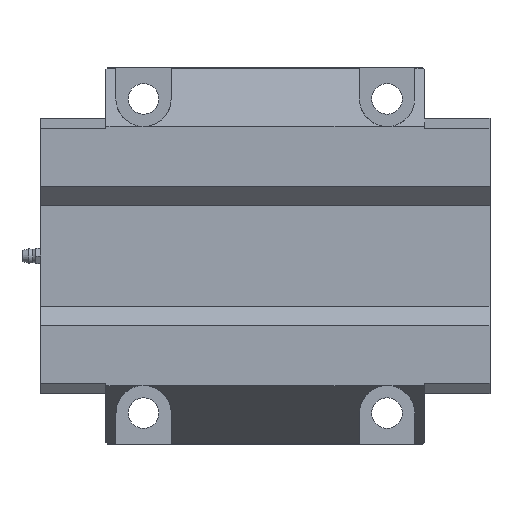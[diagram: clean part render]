
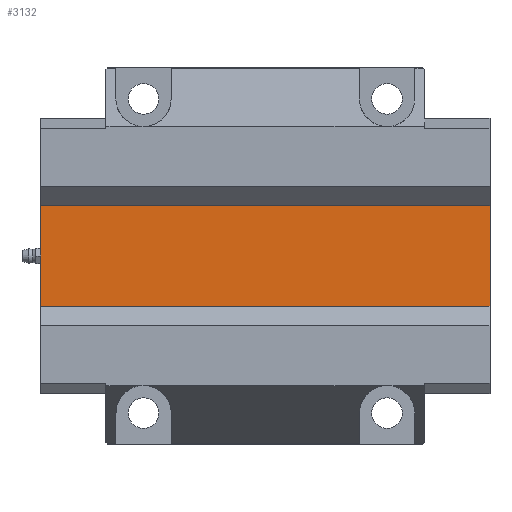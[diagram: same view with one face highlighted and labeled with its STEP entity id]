
A CAD part, front view. The second image highlights one B-rep face of the part: STEP entity #3132.
In plain terms, the highlighted planar face has unit normal (0, -1, 0).
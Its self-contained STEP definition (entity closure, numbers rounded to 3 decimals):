
#833=ORIENTED_EDGE('',*,*,#1270,.F.);
#834=ORIENTED_EDGE('',*,*,#1451,.F.);
#835=ORIENTED_EDGE('',*,*,#1213,.T.);
#836=ORIENTED_EDGE('',*,*,#1452,.T.);
#1213=EDGE_CURVE('',#1633,#1632,#1926,.T.);
#1270=EDGE_CURVE('',#1686,#1687,#1962,.T.);
#1451=EDGE_CURVE('',#1633,#1686,#2113,.T.);
#1452=EDGE_CURVE('',#1632,#1687,#2114,.T.);
#1632=VERTEX_POINT('',#4677);
#1633=VERTEX_POINT('',#4679);
#1686=VERTEX_POINT('',#4789);
#1687=VERTEX_POINT('',#4791);
#1926=LINE('',#4678,#2200);
#1962=LINE('',#4790,#2236);
#2113=LINE('',#5149,#2387);
#2114=LINE('',#5151,#2388);
#2200=VECTOR('',#3723,1000.);
#2236=VECTOR('',#3803,1000.);
#2387=VECTOR('',#4166,1000.);
#2388=VECTOR('',#4169,1000.);
#2525=EDGE_LOOP('',(#833,#834,#835,#836));
#2781=FACE_BOUND('',#2525,.T.);
#2997=PLANE('',#3424);
#3132=ADVANCED_FACE('',(#2781),#2997,.T.);
#3424=AXIS2_PLACEMENT_3D('',#5150,#4167,#4168);
#3723=DIRECTION('',(0.,0.,1.));
#3803=DIRECTION('',(0.,0.,1.));
#4166=DIRECTION('',(-1.,0.,0.));
#4167=DIRECTION('',(0.,-1.,0.));
#4168=DIRECTION('',(0.,0.,-1.));
#4169=DIRECTION('',(-1.,0.,0.));
#4677=CARTESIAN_POINT('',(101.5,45.7,30.47));
#4678=CARTESIAN_POINT('',(101.5,45.7,-30.47));
#4679=CARTESIAN_POINT('',(101.5,45.7,-30.47));
#4789=CARTESIAN_POINT('',(-101.5,45.7,-30.47));
#4790=CARTESIAN_POINT('',(-101.5,45.7,-30.47));
#4791=CARTESIAN_POINT('',(-101.5,45.7,30.47));
#5149=CARTESIAN_POINT('',(101.5,45.7,-30.47));
#5150=CARTESIAN_POINT('',(101.5,45.7,-30.47));
#5151=CARTESIAN_POINT('',(101.5,45.7,30.47));
